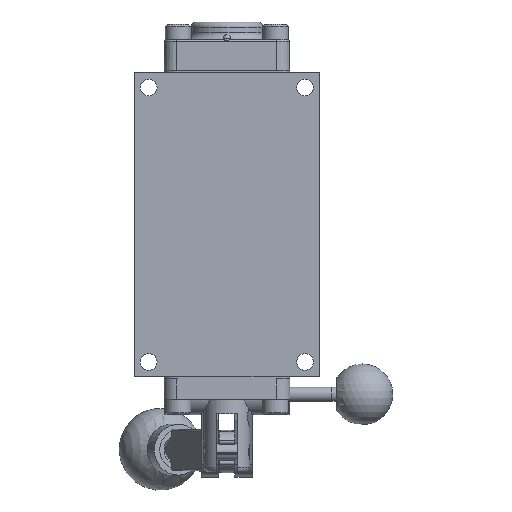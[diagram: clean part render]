
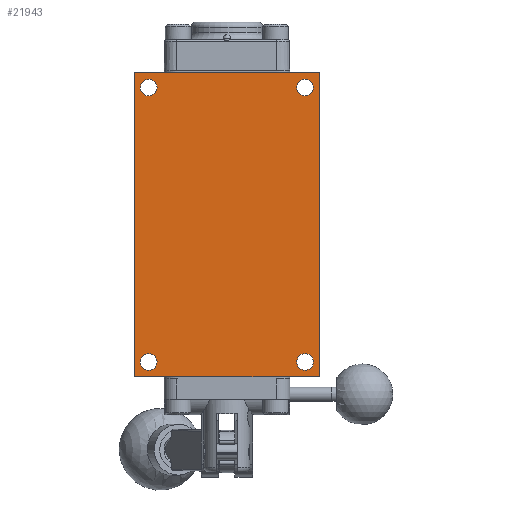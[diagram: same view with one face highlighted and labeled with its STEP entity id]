
A CAD part, front view. The second image highlights one B-rep face of the part: STEP entity #21943.
In plain terms, the highlighted planar face has unit normal (0, -1, 0).
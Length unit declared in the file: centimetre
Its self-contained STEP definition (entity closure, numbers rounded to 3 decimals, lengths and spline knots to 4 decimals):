
#1391=FACE_BOUND('',#3223,.T.);
#1392=FACE_BOUND('',#3224,.T.);
#1393=FACE_BOUND('',#3225,.T.);
#1394=FACE_BOUND('',#3226,.T.);
#1889=FACE_OUTER_BOUND('',#3222,.T.);
#3222=EDGE_LOOP('',(#15568,#15569,#15570,#15571));
#3223=EDGE_LOOP('',(#15572));
#3224=EDGE_LOOP('',(#15573));
#3225=EDGE_LOOP('',(#15574));
#3226=EDGE_LOOP('',(#15575));
#4397=CIRCLE('',#23356,0.2578);
#4398=CIRCLE('',#23358,0.2578);
#4399=CIRCLE('',#23360,0.2578);
#4400=CIRCLE('',#23362,0.2578);
#5325=LINE('',#31504,#6912);
#5329=LINE('',#31516,#6916);
#5547=LINE('',#32474,#7134);
#5789=LINE('',#33898,#7376);
#6912=VECTOR('',#25478,1.);
#6916=VECTOR('',#25488,1.);
#7134=VECTOR('',#25880,1.);
#7376=VECTOR('',#26272,1.);
#8518=VERTEX_POINT('',#31501);
#8519=VERTEX_POINT('',#31503);
#8523=VERTEX_POINT('',#31513);
#8524=VERTEX_POINT('',#31515);
#9050=VERTEX_POINT('',#34702);
#9051=VERTEX_POINT('',#34706);
#9052=VERTEX_POINT('',#34710);
#9053=VERTEX_POINT('',#34714);
#10605=EDGE_CURVE('',#8518,#8519,#5325,.T.);
#10610=EDGE_CURVE('',#8523,#8524,#5329,.T.);
#10892=EDGE_CURVE('',#8519,#8523,#5547,.T.);
#11228=EDGE_CURVE('',#8524,#8518,#5789,.T.);
#11400=EDGE_CURVE('',#9050,#9050,#4397,.T.);
#11402=EDGE_CURVE('',#9051,#9051,#4398,.T.);
#11404=EDGE_CURVE('',#9052,#9052,#4399,.T.);
#11406=EDGE_CURVE('',#9053,#9053,#4400,.T.);
#15568=ORIENTED_EDGE('',*,*,#10892,.F.);
#15569=ORIENTED_EDGE('',*,*,#10605,.F.);
#15570=ORIENTED_EDGE('',*,*,#11228,.F.);
#15571=ORIENTED_EDGE('',*,*,#10610,.F.);
#15572=ORIENTED_EDGE('',*,*,#11400,.T.);
#15573=ORIENTED_EDGE('',*,*,#11402,.T.);
#15574=ORIENTED_EDGE('',*,*,#11404,.T.);
#15575=ORIENTED_EDGE('',*,*,#11406,.T.);
#19935=PLANE('',#23388);
#21943=ADVANCED_FACE('',(#1889,#1391,#1392,#1393,#1394),#19935,.F.);
#23356=AXIS2_PLACEMENT_3D('',#34704,#26636,#26637);
#23358=AXIS2_PLACEMENT_3D('',#34708,#26641,#26642);
#23360=AXIS2_PLACEMENT_3D('',#34712,#26646,#26647);
#23362=AXIS2_PLACEMENT_3D('',#34716,#26651,#26652);
#23388=AXIS2_PLACEMENT_3D('',#34767,#26718,#26719);
#25478=DIRECTION('',(-1.,0.,0.));
#25488=DIRECTION('',(1.,0.,0.));
#25880=DIRECTION('',(0.,0.,1.));
#26272=DIRECTION('',(0.,0.,-1.));
#26636=DIRECTION('center_axis',(0.,1.,0.));
#26637=DIRECTION('ref_axis',(-1.,0.,0.));
#26641=DIRECTION('center_axis',(0.,1.,0.));
#26642=DIRECTION('ref_axis',(-1.,0.,0.));
#26646=DIRECTION('center_axis',(0.,1.,0.));
#26647=DIRECTION('ref_axis',(-1.,0.,0.));
#26651=DIRECTION('center_axis',(0.,1.,0.));
#26652=DIRECTION('ref_axis',(-1.,0.,0.));
#26718=DIRECTION('center_axis',(0.,1.,0.));
#26719=DIRECTION('ref_axis',(0.,0.,1.));
#31501=CARTESIAN_POINT('',(2.8575,-1.6358,-4.7104));
#31503=CARTESIAN_POINT('',(-2.8575,-1.6358,-4.7104));
#31504=CARTESIAN_POINT('',(2.8575,-1.6358,-4.7104));
#31513=CARTESIAN_POINT('',(-2.8575,-1.6358,4.7104));
#31515=CARTESIAN_POINT('',(2.8575,-1.6358,4.7104));
#31516=CARTESIAN_POINT('',(-2.8575,-1.6358,4.7104));
#32474=CARTESIAN_POINT('',(-2.8575,-1.6358,-4.7104));
#33898=CARTESIAN_POINT('',(2.8575,-1.6358,4.7104));
#34702=CARTESIAN_POINT('',(-2.1628,-1.6358,-4.2469));
#34704=CARTESIAN_POINT('Origin',(-2.4206,-1.6358,-4.2469));
#34706=CARTESIAN_POINT('',(-2.1628,-1.6358,4.2469));
#34708=CARTESIAN_POINT('Origin',(-2.4206,-1.6358,4.2469));
#34710=CARTESIAN_POINT('',(2.6784,-1.6358,-4.2469));
#34712=CARTESIAN_POINT('Origin',(2.4206,-1.6358,-4.2469));
#34714=CARTESIAN_POINT('',(2.6784,-1.6358,4.2469));
#34716=CARTESIAN_POINT('Origin',(2.4206,-1.6358,4.2469));
#34767=CARTESIAN_POINT('Origin',(0.,-1.6358,0.));
